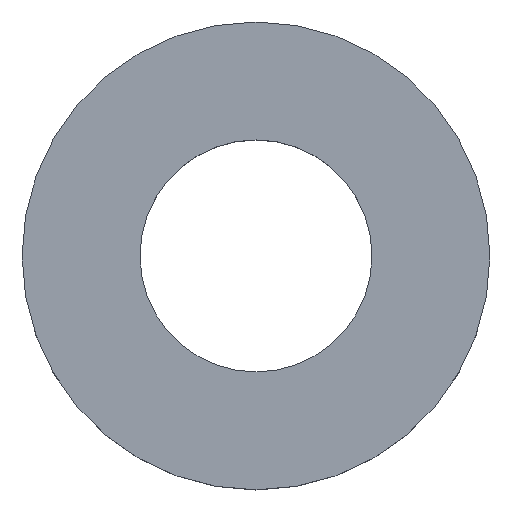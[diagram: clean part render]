
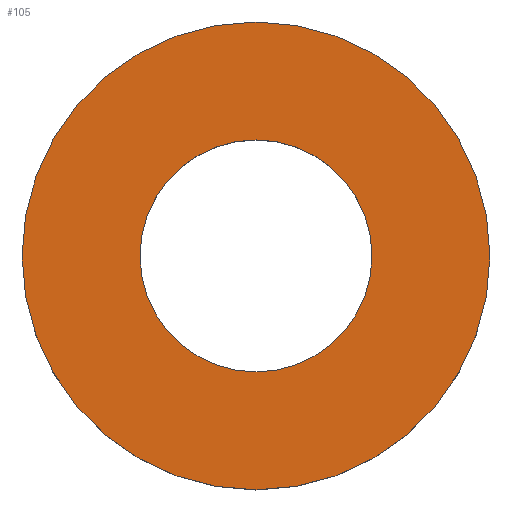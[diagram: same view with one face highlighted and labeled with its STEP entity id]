
A CAD part, top view. The second image highlights one B-rep face of the part: STEP entity #105.
In plain terms, the highlighted planar face has unit normal (0, 0, 1).
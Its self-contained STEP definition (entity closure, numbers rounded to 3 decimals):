
#21 = EDGE_CURVE('',#22,#22,#24,.T.);
#22 = VERTEX_POINT('',#23);
#23 = CARTESIAN_POINT('',(12.1,0.,0.));
#24 = SURFACE_CURVE('',#25,(#30,#42),.PCURVE_S1.);
#25 = CIRCLE('',#26,12.1);
#26 = AXIS2_PLACEMENT_3D('',#27,#28,#29);
#27 = CARTESIAN_POINT('',(0.,0.,0.));
#28 = DIRECTION('',(0.,0.,1.));
#29 = DIRECTION('',(1.,0.,-0.));
#30 = PCURVE('',#31,#36);
#31 = CYLINDRICAL_SURFACE('',#32,12.1);
#32 = AXIS2_PLACEMENT_3D('',#33,#34,#35);
#33 = CARTESIAN_POINT('',(0.,0.,-4.));
#34 = DIRECTION('',(0.,0.,1.));
#35 = DIRECTION('',(1.,0.,-0.));
#36 = DEFINITIONAL_REPRESENTATION('',(#37),#41);
#37 = LINE('',#38,#39);
#38 = CARTESIAN_POINT('',(0.,4.));
#39 = VECTOR('',#40,1.);
#40 = DIRECTION('',(1.,0.));
#41 = ( GEOMETRIC_REPRESENTATION_CONTEXT(2) 
PARAMETRIC_REPRESENTATION_CONTEXT() REPRESENTATION_CONTEXT('2D SPACE',''
  ) );
#42 = PCURVE('',#43,#48);
#43 = PLANE('',#44);
#44 = AXIS2_PLACEMENT_3D('',#45,#46,#47);
#45 = CARTESIAN_POINT('',(0.,0.,0.));
#46 = DIRECTION('',(0.,0.,1.));
#47 = DIRECTION('',(1.,0.,-0.));
#48 = DEFINITIONAL_REPRESENTATION('',(#49),#53);
#49 = CIRCLE('',#50,12.1);
#50 = AXIS2_PLACEMENT_2D('',#51,#52);
#51 = CARTESIAN_POINT('',(0.,0.));
#52 = DIRECTION('',(1.,0.));
#53 = ( GEOMETRIC_REPRESENTATION_CONTEXT(2) 
PARAMETRIC_REPRESENTATION_CONTEXT() REPRESENTATION_CONTEXT('2D SPACE',''
  ) );
#105 = ADVANCED_FACE('',(#106,#109),#43,.T.);
#106 = FACE_BOUND('',#107,.T.);
#107 = EDGE_LOOP('',(#108));
#108 = ORIENTED_EDGE('',*,*,#21,.T.);
#109 = FACE_BOUND('',#110,.T.);
#110 = EDGE_LOOP('',(#111));
#111 = ORIENTED_EDGE('',*,*,#112,.F.);
#112 = EDGE_CURVE('',#113,#113,#115,.T.);
#113 = VERTEX_POINT('',#114);
#114 = CARTESIAN_POINT('',(6.,0.,0.));
#115 = SURFACE_CURVE('',#116,(#121,#128),.PCURVE_S1.);
#116 = CIRCLE('',#117,6.);
#117 = AXIS2_PLACEMENT_3D('',#118,#119,#120);
#118 = CARTESIAN_POINT('',(0.,0.,0.));
#119 = DIRECTION('',(0.,0.,1.));
#120 = DIRECTION('',(1.,0.,-0.));
#121 = PCURVE('',#43,#122);
#122 = DEFINITIONAL_REPRESENTATION('',(#123),#127);
#123 = CIRCLE('',#124,6.);
#124 = AXIS2_PLACEMENT_2D('',#125,#126);
#125 = CARTESIAN_POINT('',(0.,0.));
#126 = DIRECTION('',(1.,0.));
#127 = ( GEOMETRIC_REPRESENTATION_CONTEXT(2) 
PARAMETRIC_REPRESENTATION_CONTEXT() REPRESENTATION_CONTEXT('2D SPACE',''
  ) );
#128 = PCURVE('',#129,#134);
#129 = CYLINDRICAL_SURFACE('',#130,6.);
#130 = AXIS2_PLACEMENT_3D('',#131,#132,#133);
#131 = CARTESIAN_POINT('',(0.,0.,-5.));
#132 = DIRECTION('',(0.,0.,1.));
#133 = DIRECTION('',(1.,0.,-0.));
#134 = DEFINITIONAL_REPRESENTATION('',(#135),#139);
#135 = LINE('',#136,#137);
#136 = CARTESIAN_POINT('',(0.,5.));
#137 = VECTOR('',#138,1.);
#138 = DIRECTION('',(1.,0.));
#139 = ( GEOMETRIC_REPRESENTATION_CONTEXT(2) 
PARAMETRIC_REPRESENTATION_CONTEXT() REPRESENTATION_CONTEXT('2D SPACE',''
  ) );
